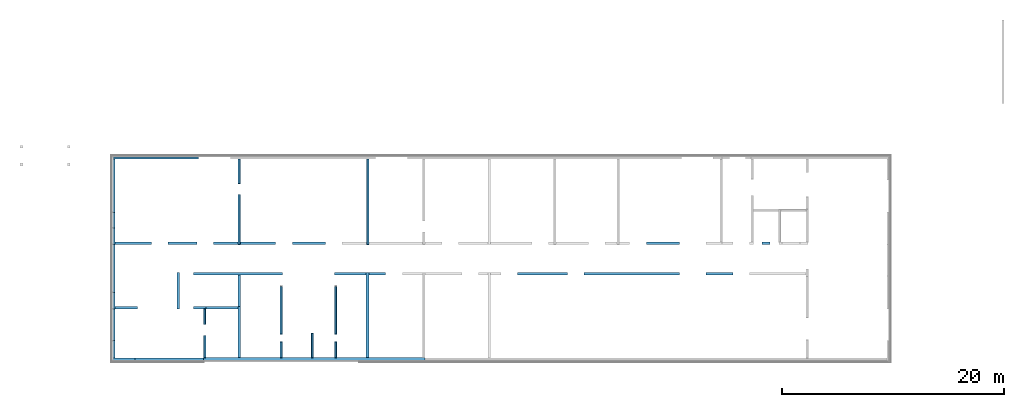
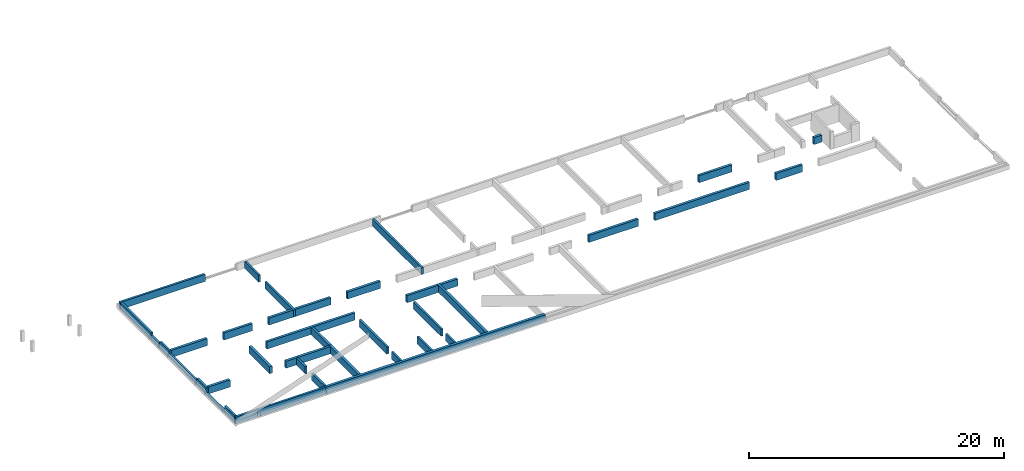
# One storey, part 1 of 7: 39 beams.
"""IFC2X3 building model written with IfcOpenShell, lengths in millimetres."""

from ifc_helpers import new_model, entity, si_unit, converted_unit, derived_unit, money_unit, direction, frame, origin_with_axes, place, context, subcontext, project, spatial, polyline, outline, extrude, faceted_brep, material, type_object, element, save


model = new_model("IFC2X3")

# Units and contexts
model_context = context("Model", 3, precision=0.01, world=origin_with_axes(), true_north=direction((0.0, 1.0)))
body_context = subcontext(model_context, "Body", "Model", "MODEL_VIEW")
ifc_project = project(units=[si_unit("LENGTHUNIT", "METRE", prefix="MILLI"), si_unit("AREAUNIT", "SQUARE_METRE"), si_unit("VOLUMEUNIT", "CUBIC_METRE"), converted_unit("PLANEANGLEUNIT", "DEGREE", entity("IfcPlaneAngleMeasure", 0.0174532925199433), si_unit("PLANEANGLEUNIT", "RADIAN"), dimensions=[0, 0, 0, 0, 0, 0, 0]), money_unit("EUR"), converted_unit("TIMEUNIT", "Year", entity("IfcTimeMeasure", 31556926.0), si_unit("TIMEUNIT", "SECOND"), dimensions=[0, 0, 1, 0, 0, 0, 0]), si_unit("MASSUNIT", "GRAM", prefix="KILO"), si_unit("THERMODYNAMICTEMPERATUREUNIT", "DEGREE_CELSIUS"), si_unit("LUMINOUSINTENSITYUNIT", "LUMEN"), si_unit("ENERGYUNIT", "JOULE", prefix="MEGA"), derived_unit("THERMALCONDUCTANCEUNIT", [(si_unit("POWERUNIT", "WATT"), 1), (si_unit("LENGTHUNIT", "METRE"), -1), (si_unit("THERMODYNAMICTEMPERATUREUNIT", "KELVIN"), -1)]), derived_unit("SPECIFICHEATCAPACITYUNIT", [(si_unit("ENERGYUNIT", "JOULE"), 1), (si_unit("MASSUNIT", "GRAM", prefix="KILO"), -1), (si_unit("THERMODYNAMICTEMPERATUREUNIT", "KELVIN"), -1)]), derived_unit("MASSDENSITYUNIT", [(si_unit("MASSUNIT", "GRAM", prefix="KILO"), 1), (si_unit("VOLUMEUNIT", "CUBIC_METRE"), -1)])], contexts=[model_context])

# Site, building, storey
site_placement = place(None, origin_with_axes())
site = spatial("IfcSite", under=ifc_project, at=site_placement, Name="ÜBN Kinnistu Nimi -> SOLIBRI", CompositionType="ELEMENT")
building_placement = place(site_placement, origin_with_axes())
building = spatial("IfcBuilding", under=site, at=building_placement, Name="METK ARETUSKESKUS II", CompositionType="ELEMENT")
storey_placement = place(building_placement, frame((0.0, 0.0, -1610.0), z_axis=(0.0, 0.0, 1.0), x_axis=(1.0, 0.0, 0.0)))
storey = spatial("IfcBuildingStorey", under=building, at=storey_placement, Name="Vundament", CompositionType="ELEMENT", Elevation=-1610.0)

# Beams
ifc_material_1 = material(Name="31 Konst: raudbetoon monoliitne")
beam_type_1 = type_object("IfcBeamType", Name="31 Konst: raudbetoon monoliitne 180", PredefinedType="BEAM")
beam_1_placement = place(storey_placement, frame((39815.00000193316, 20080.0, 1330.0), z_axis=(0.0, 0.0, 1.0), x_axis=(0.0, 1.0, 0.0)))
element("IfcBeam", 1, at=beam_1_placement, inside=storey, type_object=beam_type_1, material=ifc_material_1, ObjectType="BEAM", context=body_context, shape_type="Brep", body=[
    faceted_brep([(0.0, 0.0, 0.0), (1410.017109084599, 0.0, 0.0), (1410.017109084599, -179.9999999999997, 0.0), (0.0, -179.9999999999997, 0.0), (0.0, 0.0, 680.0000000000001), (1410.017109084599, 0.0, 680.0000000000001), (1410.017109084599, -179.9999999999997, 680.0000000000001), (0.0, -179.9999999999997, 680.0000000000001)], [[[0, 1, 2, 3]], [[4, 5, 1, 0]], [[2, 1, 5, 6]], [[3, 2, 6, 7]], [[4, 0, 3, 7]], [[7, 6, 5, 4]]]),
])
beam_2_placement = place(storey_placement, frame((28195.00000190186, 23070.00818837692, 1330.0), z_axis=(0.0, 0.0, 1.0), x_axis=(0.0, 1.0, 0.0)))
element("IfcBeam", 2, at=beam_2_placement, inside=storey, type_object=beam_type_1, material=ifc_material_1, ObjectType="BEAM", context=body_context, shape_type="Brep", body=[
    faceted_brep([(0.0, 0.0, 0.0), (1404.991782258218, 0.0, 0.0), (1404.991782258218, 0.0, 680.0000000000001), (0.0, 0.0, 680.0000000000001), (0.0, 179.9999999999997, 0.0), (1404.991782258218, 179.9999999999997, 0.0), (1404.991782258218, 179.9999999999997, 680.0000000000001), (0.0, 179.9999999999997, 680.0000000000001)], [[[0, 1, 2, 3]], [[4, 5, 1, 0]], [[5, 6, 2, 1]], [[3, 2, 6, 7]], [[7, 4, 0, 3]], [[7, 6, 5, 4]]]),
])
beam_3_placement = place(storey_placement, frame((35085.00000190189, 20080.0, 1330.0), z_axis=(0.0, 0.0, 1.0), x_axis=(0.0, 1.0, 0.0)))
element("IfcBeam", 3, at=beam_3_placement, inside=storey, type_object=beam_type_1, material=ifc_material_1, ObjectType="BEAM", context=body_context, shape_type="Brep", body=[
    faceted_brep([(0.0, 0.0, 680.0000000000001), (1410.017109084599, 0.0, 680.0000000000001), (1410.017109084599, 179.9999999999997, 680.0000000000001), (0.0, 179.9999999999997, 680.0000000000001), (0.0, 0.0, 0.0), (1410.017109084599, 0.0, 0.0), (1410.017109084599, 179.9999999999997, 0.0), (0.0, 179.9999999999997, 0.0)], [[[0, 1, 2, 3]], [[4, 5, 1, 0]], [[2, 1, 5, 6]], [[3, 2, 6, 7]], [[4, 0, 3, 7]], [[7, 6, 5, 4]]]),
])
beam_4_placement = place(storey_placement, frame((39815.00000193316, 22190.0171090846, 1330.0), z_axis=(0.0, 0.0, 1.0), x_axis=(0.0, 1.0, 0.0)))
element("IfcBeam", 4, at=beam_4_placement, inside=storey, type_object=beam_type_1, material=ifc_material_1, ObjectType="BEAM", context=body_context, shape_type="Brep", body=[
    faceted_brep([(0.0, 0.0, 0.0), (4309.982849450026, 0.0, 0.0), (4309.982849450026, -179.9999999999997, 0.0), (0.0, -179.9999999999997, 0.0), (0.0, 0.0, 680.0000000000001), (4309.982849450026, 0.0, 680.0000000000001), (4309.982849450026, -179.9999999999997, 680.0000000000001), (0.0, -179.9999999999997, 680.0000000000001)], [[[0, 1, 2, 3]], [[4, 5, 1, 0]], [[2, 1, 5, 6]], [[3, 2, 6, 7]], [[4, 0, 3, 7]], [[7, 6, 5, 4]]]),
])
beam_5_placement = place(storey_placement, frame((35085.00000190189, 22190.0171090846, 1330.0), z_axis=(0.0, 0.0, 1.0), x_axis=(0.0, 1.0, 0.0)))
element("IfcBeam", 5, at=beam_5_placement, inside=storey, type_object=beam_type_1, material=ifc_material_1, ObjectType="BEAM", context=body_context, shape_type="Brep", body=[
    faceted_brep([(0.0, 0.0, 680.0000000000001), (4309.982849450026, 0.0, 680.0000000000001), (4309.982849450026, 179.9999999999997, 680.0000000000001), (0.0, 179.9999999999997, 680.0000000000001), (0.0, 0.0, 0.0), (4309.982849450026, 0.0, 0.0), (4309.982849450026, 179.9999999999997, 0.0), (0.0, 179.9999999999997, 0.0)], [[[0, 1, 2, 3]], [[4, 5, 1, 0]], [[2, 1, 5, 6]], [[3, 2, 6, 7]], [[4, 0, 3, 7]], [[7, 6, 5, 4]]]),
])
beam_6_placement = place(storey_placement, frame((37696.16851933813, 20080.0, 1330.0), z_axis=(0.0, 0.0, 1.0), x_axis=(0.0, 1.0, 0.0)))
element("IfcBeam", 6, at=beam_6_placement, inside=storey, type_object=beam_type_1, material=ifc_material_1, ObjectType="BEAM", context=body_context, shape_type="Brep", body=[
    faceted_brep([(0.0, 0.0, 0.0), (2220.017124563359, 0.0, 0.0), (2220.017124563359, -179.9999999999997, 0.0), (0.0, -179.9999999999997, 0.0), (0.0, 0.0, 680.0000000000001), (2220.017124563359, 0.0, 680.0000000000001), (2220.017124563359, -179.9999999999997, 680.0000000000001), (0.0, -179.9999999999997, 680.0000000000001)], [[[0, 1, 2, 3]], [[4, 5, 1, 0]], [[2, 1, 5, 6]], [[3, 2, 6, 7]], [[4, 0, 3, 7]], [[7, 6, 5, 4]]]),
])
beam_7_placement = place(storey_placement, frame((28195.00000190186, 20080.0, 1330.0), z_axis=(0.0, 0.0, 1.0), x_axis=(0.0, 1.0, 0.0)))
element("IfcBeam", 7, at=beam_7_placement, inside=storey, type_object=beam_type_1, material=ifc_material_1, ObjectType="BEAM", context=body_context, shape_type="Brep", body=[
    faceted_brep([(0.0, 0.0, 680.0000000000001), (1990.008188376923, 0.0, 680.0000000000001), (1990.008188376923, 179.9999999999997, 680.0000000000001), (0.0, 179.9999999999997, 680.0000000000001), (0.0, 0.0, 0.0), (1990.008188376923, 0.0, 0.0), (1990.008188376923, 179.9999999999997, 0.0), (0.0, 179.9999999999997, 0.0)], [[[0, 1, 2, 3]], [[4, 5, 1, 0]], [[2, 1, 5, 6]], [[3, 2, 6, 7]], [[4, 0, 3, 7]], [[7, 6, 5, 4]]]),
])
beam_8_placement = place(storey_placement, frame((31285.00000190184, 35770.00000209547, 1330.0), z_axis=(0.0, 0.0, 1.0), x_axis=(0.0, 1.0, 0.0)))
element("IfcBeam", 8, at=beam_8_placement, inside=storey, type_object=beam_type_1, material=ifc_material_1, ObjectType="BEAM", context=body_context, shape_type="Brep", body=[
    faceted_brep([(2200.000004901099, 0.0, 680.0000000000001), (2200.000004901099, 179.9999999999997, 680.0000000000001), (0.0, 179.9999999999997, 680.0000000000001), (0.0, 0.0, 680.0000000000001), (2200.000004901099, 0.0, 0.0), (2200.000004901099, 179.9999999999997, 0.0), (0.0, 179.9999999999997, 0.0), (0.0, 0.0, 0.0)], [[[0, 1, 2, 3]], [[1, 0, 4, 5]], [[1, 5, 6, 2]], [[7, 3, 2, 6]], [[4, 0, 3, 7]], [[5, 4, 7, 6]]]),
])
beam_9_placement = place(storey_placement, frame((42885.00000380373, 30265.00000683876, 1330.0), z_axis=(0.0, 0.0, 1.0), x_axis=(0.0, 1.0, 0.0)))
element("IfcBeam", 9, at=beam_9_placement, inside=storey, type_object=beam_type_1, material=ifc_material_1, ObjectType="BEAM", context=body_context, shape_type="Brep", body=[
    faceted_brep([(7705.000000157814, 0.0, 680.0000000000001), (7705.000000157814, 179.9999999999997, 680.0000000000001), (0.0, 179.9999999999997, 680.0000000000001), (0.0, 0.0, 680.0000000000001), (7705.000000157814, 0.0, 0.0), (7705.000000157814, 179.9999999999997, 0.0), (0.0, 179.9999999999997, 0.0), (0.0, 0.0, 0.0)], [[[0, 1, 2, 3]], [[1, 0, 4, 5]], [[1, 5, 6, 2]], [[7, 3, 2, 6]], [[4, 0, 3, 7]], [[5, 4, 7, 6]]]),
])
beam_10_placement = place(storey_placement, frame((31285.00000190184, 30265.00000683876, 1330.0), z_axis=(0.0, 0.0, 1.0), x_axis=(0.0, 1.0, 0.0)))
element("IfcBeam", 10, at=beam_10_placement, inside=storey, type_object=beam_type_1, material=ifc_material_1, ObjectType="BEAM", context=body_context, shape_type="Brep", body=[
    faceted_brep([(0.0, 0.0, 680.0000000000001), (4504.999995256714, 0.0, 680.0000000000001), (4504.999995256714, 179.9999999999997, 680.0000000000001), (0.0, 179.9999999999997, 680.0000000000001), (0.0, 0.0, 0.0), (4504.999995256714, 0.0, 0.0), (4504.999995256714, 179.9999999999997, 0.0), (0.0, 179.9999999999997, 0.0)], [[[0, 1, 2, 3]], [[4, 5, 1, 0]], [[2, 1, 5, 6]], [[3, 2, 6, 7]], [[4, 0, 3, 7]], [[7, 6, 5, 4]]]),
])
beam_type_2 = type_object("IfcBeamType", Name="31 Konst: raudbetoon monoliitne 230", PredefinedType="BEAM")
beam_11_placement = place(storey_placement, frame((31335.00000190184, 20080.0, 1330.0), z_axis=(0.0, 0.0, 1.0), x_axis=(0.0, 1.0, 0.0)))
element("IfcBeam", 11, at=beam_11_placement, inside=storey, type_object=beam_type_2, material=ifc_material_1, ObjectType="BEAM", context=body_context, shape_type="Brep", body=[
    faceted_brep([(4624.999970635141, 0.0, 680.0000000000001), (4624.999970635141, 230.0000000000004, 680.0000000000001), (0.0, 230.0000000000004, 680.0000000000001), (0.0, 0.0, 680.0000000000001), (4624.999970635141, 0.0, 0.0), (4624.999970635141, 230.0000000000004, 0.0), (0.0, 230.0000000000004, 0.0), (0.0, 0.0, 0.0)], [[[0, 1, 2, 3]], [[1, 0, 4, 5]], [[1, 5, 6, 2]], [[7, 3, 2, 6]], [[4, 0, 3, 7]], [[5, 4, 7, 6]]]),
])
beam_12_placement = place(storey_placement, frame((25605.00000190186, 24474.99995853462, 1330.0), z_axis=(0.0, 0.0, 1.0), x_axis=(0.0, 1.0, 0.0)))
element("IfcBeam", 12, at=beam_12_placement, inside=storey, type_object=beam_type_2, material=ifc_material_1, ObjectType="BEAM", context=body_context, shape_type="SweptSolid", body=[
    extrude(outline(polyline([(0.0, -230.0000000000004), (3259.999999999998, -230.0000000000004), (3259.999999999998, 0.0), (0.0, 0.0), (0.0, -230.0000000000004)])), origin_with_axes(), (0.0, 0.0, 1.0), 680.0),
])
beam_13_placement = place(storey_placement, frame((42885.00000380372, 20080.0, 1330.0), z_axis=(0.0, 0.0, 1.0), x_axis=(0.0, 1.0, 0.0)))
element("IfcBeam", 13, at=beam_13_placement, inside=storey, type_object=beam_type_2, material=ifc_material_1, ObjectType="BEAM", context=body_context, shape_type="Brep", body=[
    faceted_brep([(7654.999958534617, 0.0, 680.0000000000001), (7654.999958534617, 229.9999999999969, 680.0000000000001), (0.0, 229.9999999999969, 680.0000000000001), (0.0, 0.0, 680.0000000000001), (7654.999958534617, 0.0, 0.0), (7654.999958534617, 229.9999999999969, 0.0), (0.0, 229.9999999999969, 0.0), (0.0, 0.0, 0.0)], [[[0, 1, 2, 3]], [[1, 0, 4, 5]], [[1, 5, 6, 2]], [[7, 3, 2, 6]], [[4, 0, 3, 7]], [[5, 4, 7, 6]]]),
])
beam_14_placement = place(storey_placement, frame((27090.00000190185, 27734.99995853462, 1330.0), z_axis=(0.0, 0.0, 1.0), x_axis=(1.0, 0.0, 0.0)))
element("IfcBeam", 14, at=beam_14_placement, inside=storey, type_object=beam_type_2, material=ifc_material_1, ObjectType="BEAM", context=body_context, shape_type="Brep", body=[
    faceted_brep([(0.0, 0.0, 0.0), (8000.000000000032, 0.0, 0.0), (8000.000000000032, -230.0000000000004, 0.0), (0.0, -230.0000000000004, 0.0), (0.0, 0.0, 680.0000000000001), (8000.000000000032, 0.0, 680.0000000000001), (8000.000000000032, -230.0000000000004, 680.0000000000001), (0.0, -230.0000000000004, 680.0000000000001)], [[[0, 1, 2, 3]], [[4, 5, 1, 0]], [[2, 1, 5, 6]], [[3, 2, 6, 7]], [[4, 0, 3, 7]], [[7, 6, 5, 4]]]),
])
beam_15_placement = place(storey_placement, frame((31105.00000190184, 24474.99997063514, 1330.0), z_axis=(0.0, 0.0, 1.0), x_axis=(0.0, 1.0, 0.0)))
element("IfcBeam", 15, at=beam_15_placement, inside=storey, type_object=beam_type_2, material=ifc_material_1, ObjectType="BEAM", context=body_context, shape_type="Brep", body=[
    faceted_brep([(3029.999987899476, -230.0000000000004, 680.0000000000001), (3029.999987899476, 0.0, 680.0000000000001), (230.0000000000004, 0.0, 680.0000000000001), (230.0000000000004, -230.0000000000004, 680.0000000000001), (3029.999987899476, -230.0000000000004, 0.0), (3029.999987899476, 0.0, 0.0), (230.0000000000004, 0.0, 0.0), (230.0000000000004, -230.0000000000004, 0.0)], [[[0, 1, 2, 3]], [[1, 0, 4, 5]], [[1, 5, 6, 2]], [[7, 3, 2, 6]], [[4, 0, 3, 7]], [[5, 4, 7, 6]]]),
])
beam_16_placement = place(storey_placement, frame((28195.00000190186, 24474.99997063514, 1330.0), z_axis=(0.0, 0.0, 1.0), x_axis=(1.0, 0.0, 0.0)))
element("IfcBeam", 16, at=beam_16_placement, inside=storey, type_object=beam_type_2, material=ifc_material_1, ObjectType="BEAM", context=body_context, shape_type="Brep", body=[
    faceted_brep([(2909.999999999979, 230.0000000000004, 680.0000000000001), (0.0, 230.0000000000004, 680.0000000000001), (0.0, 0.0, 680.0000000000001), (2909.999999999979, 0.0, 680.0000000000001), (2909.999999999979, 230.0000000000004, 0.0), (0.0, 230.0000000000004, 0.0), (0.0, 0.0, 0.0), (2909.999999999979, 0.0, 0.0)], [[[0, 1, 2, 3]], [[4, 5, 1, 0]], [[1, 5, 6, 2]], [[3, 2, 6, 7]], [[7, 4, 0, 3]], [[7, 6, 5, 4]]]),
])
beam_17_placement = place(storey_placement, frame((27090.00000190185, 24474.99997063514, 1330.0), z_axis=(0.0, 0.0, 1.0), x_axis=(1.0, 0.0, 0.0)))
element("IfcBeam", 17, at=beam_17_placement, inside=storey, type_object=beam_type_2, material=ifc_material_1, ObjectType="BEAM", context=body_context, shape_type="Brep", body=[
    faceted_brep([(0.0, 230.0000000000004, 0.0), (0.0, 230.0000000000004, 285.0000000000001), (-4.999984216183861, 230.0000000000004, 285.0000000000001), (-4.999984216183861, 230.0000000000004, 680.0), (1105.000000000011, 230.0000000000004, 680.0000000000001), (1105.000000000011, 230.0000000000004, 0.0), (0.0, 0.0, 0.0), (0.0, 0.0, 285.0000000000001), (-4.999984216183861, 0.0, 285.0000000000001), (-4.999984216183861, 0.0, 680.0), (1105.000000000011, 0.0, 680.0000000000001), (1105.000000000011, 0.0, 0.0)], [[[0, 1, 2, 3, 4, 5]], [[6, 7, 1, 0]], [[1, 7, 8, 2]], [[2, 8, 9, 3]], [[10, 4, 3, 9]], [[11, 5, 4, 10]], [[5, 11, 6, 0]], [[11, 10, 9, 8, 7, 6]]]),
])
beam_18_placement = place(storey_placement, frame((20030.00000000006, 24474.99997063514, 1330.0), z_axis=(0.0, 0.0, 1.0), x_axis=(1.0, 0.0, 0.0)))
element("IfcBeam", 18, at=beam_18_placement, inside=storey, type_object=beam_type_2, material=ifc_material_1, ObjectType="BEAM", context=body_context, shape_type="Brep", body=[
    faceted_brep([(-189.9999999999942, 230.0000000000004, 180.0), (-189.9999999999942, 5.000029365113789, 179.9999999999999), (0.0, 5.000029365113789, 179.9999999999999), (0.0, 230.0000000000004, 180.0), (-189.9999999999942, 230.0000000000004, 0.0), (-189.9999999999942, 5.000029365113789, 0.0), (0.0, 5.000029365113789, 0.0), (0.0, 0.0, 179.9999999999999), (0.0, 0.0, 680.0000000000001), (0.0, 230.0000000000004, 680.0000000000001), (1999.99999999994, 230.0000000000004, 680.0000000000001), (1999.99999999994, 230.0000000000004, 0.0), (0.0, 0.0, 0.0), (1999.99999999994, 0.0, 0.0), (1999.99999999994, 0.0, 680.0000000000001)], [[[0, 1, 2, 3]], [[4, 5, 1, 0]], [[6, 2, 1, 5]], [[3, 2, 7, 8, 9]], [[10, 11, 4, 0, 3, 9]], [[12, 6, 5, 4, 11, 13]], [[12, 7, 2, 6]], [[8, 7, 12, 13, 14]], [[14, 10, 9, 8]], [[13, 11, 10, 14]]]),
])
beam_19_placement = place(storey_placement, frame((20030.00000000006, 30265.00000683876, 1330.0), z_axis=(0.0, 0.0, 1.0), x_axis=(1.0, 0.0, 0.0)))
element("IfcBeam", 19, at=beam_19_placement, inside=storey, type_object=beam_type_2, material=ifc_material_1, ObjectType="BEAM", context=body_context, shape_type="Brep", body=[
    faceted_brep([(-189.9999999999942, 230.0000000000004, 435.0004703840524), (-189.9999999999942, 14.99997043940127, 435.0004703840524), (0.0, 14.99997043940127, 435.0004703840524), (0.0, 230.0000000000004, 435.0004703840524), (-189.9999999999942, 230.0000000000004, 0.0), (-189.9999999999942, 14.99997043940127, 0.0), (0.0, 14.99997043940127, 0.0), (0.0, 0.0, 435.0004703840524), (0.0, 0.0, 680.0000000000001), (0.0, 230.0000000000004, 680.0000000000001), (3260.400000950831, 230.0000000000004, 680.0000000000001), (3260.400000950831, 230.0000000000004, 0.0), (0.0, 0.0, 0.0), (3260.400000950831, 0.0, 0.0), (3260.400000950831, 0.0, 680.0000000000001)], [[[0, 1, 2, 3]], [[4, 5, 1, 0]], [[6, 2, 1, 5]], [[3, 2, 7, 8, 9]], [[10, 11, 4, 0, 3, 9]], [[12, 6, 5, 4, 11, 13]], [[12, 7, 2, 6]], [[8, 7, 12, 13, 14]], [[14, 10, 9, 8]], [[13, 11, 10, 14]]]),
])
beam_20_placement = place(storey_placement, frame((78330.00000107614, 30265.00000683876, 1330.0), z_axis=(0.0, 0.0, 1.0), x_axis=(1.0, 0.0, 0.0)))
element("IfcBeam", 20, at=beam_20_placement, inside=storey, type_object=beam_type_2, material=ifc_material_1, ObjectType="BEAM", context=body_context, shape_type="SweptSolid", body=[
    extrude(outline(polyline([(0.0, 0.0), (700.000000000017, 0.0), (700.000000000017, 230.0000000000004), (0.0, 230.0000000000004), (0.0, 0.0)])), origin_with_axes(), (0.0, 0.0, 1.0), 680.0),
])
beam_type_3 = type_object("IfcBeamType", Name="31 Konst: raudbetoon monoliitne 190", PredefinedType="BEAM")
beam_21_placement = place(storey_placement, frame((20030.00000000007, 25969.99997727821, 1330.0), z_axis=(0.0, 0.0, 1.0), x_axis=(0.0, 1.0, 0.0)))
element("IfcBeam", 21, at=beam_21_placement, inside=storey, type_object=beam_type_3, material=ifc_material_1, ObjectType="BEAM", context=body_context, shape_type="Brep", body=[
    faceted_brep([(0.0, 0.0, 435.0004703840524), (4309.999999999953, 0.0, 435.0004703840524), (4309.999999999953, 190.0000000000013, 435.0004703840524), (0.0, 190.0000000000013, 435.0004703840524), (0.0, 0.0, 0.0), (4309.999999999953, 0.0, 0.0), (4309.999999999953, 190.0000000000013, 0.0), (0.0, 190.0000000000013, 0.0)], [[[0, 1, 2, 3]], [[4, 5, 1, 0]], [[2, 1, 5, 6]], [[3, 2, 6, 7]], [[4, 0, 3, 7]], [[7, 6, 5, 4]]]),
])
beam_22_placement = place(storey_placement, frame((20030.00000000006, 33180.000060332, 1330.0), z_axis=(0.0, 0.0, 1.0), x_axis=(0.0, 1.0, 0.0)))
element("IfcBeam", 22, at=beam_22_placement, inside=storey, type_object=beam_type_3, material=ifc_material_1, ObjectType="BEAM", context=body_context, shape_type="Brep", body=[
    faceted_brep([(4789.999946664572, 0.0, 680.0000000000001), (4789.999946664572, 190.0000000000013, 680.0000000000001), (0.0, 190.0000000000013, 680.0000000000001), (0.0, 0.0, 680.0000000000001), (4789.999946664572, 0.0, 0.0), (4789.999946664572, 190.0000000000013, 0.0), (0.0, 190.0000000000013, 0.0), (0.0, 0.0, 0.0)], [[[0, 1, 2, 3]], [[1, 0, 4, 5]], [[1, 5, 6, 2]], [[7, 3, 2, 6]], [[4, 0, 3, 7]], [[5, 4, 7, 6]]]),
])
beam_23_placement = place(storey_placement, frame((20030.00000000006, 31770.13961946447, 1330.0), z_axis=(0.0, 0.0, 1.0), x_axis=(0.0, 1.0, 0.0)))
element("IfcBeam", 23, at=beam_23_placement, inside=storey, type_object=beam_type_3, material=ifc_material_1, ObjectType="BEAM", context=body_context, shape_type="Brep", body=[
    faceted_brep([(0.0, 0.0, 435.0004703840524), (1409.860440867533, 0.0, 435.0004703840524), (1409.860440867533, 190.0000000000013, 435.0004703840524), (0.0, 190.0000000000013, 435.0004703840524), (0.0, 0.0, 0.0), (1409.860440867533, 0.0, 0.0), (1409.860440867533, 190.0000000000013, 0.0), (0.0, 190.0000000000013, 0.0)], [[[0, 1, 2, 3]], [[4, 5, 1, 0]], [[2, 1, 5, 6]], [[3, 2, 6, 7]], [[4, 0, 3, 7]], [[7, 6, 5, 4]]]),
])
beam_24_placement = place(storey_placement, frame((20030.00000000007, 20030.00000000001, 1330.0), z_axis=(0.0, 0.0, 1.0), x_axis=(1.0, 0.0, 0.0)))
element("IfcBeam", 24, at=beam_24_placement, inside=storey, type_object=beam_type_3, material=ifc_material_1, ObjectType="BEAM", context=body_context, shape_type="Brep", body=[
    faceted_brep([(1809.999999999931, -190.0000000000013, 0.0), (-190.0000000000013, -190.0000000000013, 0.0), (-190.0000000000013, 0.0, 0.0), (1809.999999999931, 0.0, 0.0), (1809.999999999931, -190.0000000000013, 680.0000000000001), (-190.0000000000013, -190.0000000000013, 680.0000000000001), (-190.0000000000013, 0.0, 680.0000000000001), (1809.999999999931, 0.0, 680.0000000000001)], [[[0, 1, 2, 3]], [[4, 5, 1, 0]], [[6, 2, 1, 5]], [[3, 2, 6, 7]], [[7, 4, 0, 3]], [[7, 6, 5, 4]]]),
])
beam_25_placement = place(storey_placement, frame((20030.00000000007, 21619.99996998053, 1330.0), z_axis=(0.0, 0.0, 1.0), x_axis=(0.0, 1.0, 0.0)))
element("IfcBeam", 25, at=beam_25_placement, inside=storey, type_object=beam_type_3, material=ifc_material_1, ObjectType="BEAM", context=body_context, shape_type="Brep", body=[
    faceted_brep([(0.0, 0.0, 179.9999999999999), (2860.000030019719, 0.0, 179.9999999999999), (2860.000030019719, 190.0000000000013, 179.9999999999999), (0.0, 190.0000000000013, 179.9999999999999), (0.0, 0.0, 0.0), (2860.000030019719, 0.0, 0.0), (2860.000030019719, 190.0000000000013, 0.0), (0.0, 190.0000000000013, 0.0)], [[[0, 1, 2, 3]], [[4, 5, 1, 0]], [[2, 1, 5, 6]], [[3, 2, 6, 7]], [[4, 0, 3, 7]], [[7, 6, 5, 4]]]),
])
beam_26_placement = place(storey_placement, frame((21840.0, 20030.00000000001, 1330.0), z_axis=(0.0, 0.0, 1.0), x_axis=(1.0, 0.0, 0.0)))
element("IfcBeam", 26, at=beam_26_placement, inside=storey, type_object=beam_type_3, material=ifc_material_1, ObjectType="BEAM", context=body_context, shape_type="Brep", body=[
    faceted_brep([(6170.000001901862, -190.0000000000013, 0.0), (0.0, -190.0000000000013, 0.0), (0.0, 0.0, 0.0), (6170.000001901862, 0.0, 0.0), (6170.000001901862, -190.0000000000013, 680.0000000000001), (0.0, -190.0000000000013, 680.0000000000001), (0.0, 0.0, 680.0000000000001), (6170.000001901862, 0.0, 680.0000000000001)], [[[0, 1, 2, 3]], [[4, 5, 1, 0]], [[1, 5, 6, 2]], [[3, 2, 6, 7]], [[7, 4, 0, 3]], [[7, 6, 5, 4]]]),
])
beam_27_placement = place(storey_placement, frame((20030.00000000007, 20030.00000000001, 1330.0), z_axis=(0.0, 0.0, 1.0), x_axis=(0.0, 1.0, 0.0)))
element("IfcBeam", 27, at=beam_27_placement, inside=storey, type_object=beam_type_3, material=ifc_material_1, ObjectType="BEAM", context=body_context, shape_type="Brep", body=[
    faceted_brep([(0.0, 0.0, 0.0), (1589.999969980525, 0.0, 0.0), (1589.999969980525, 0.0, 180.0), (1589.999969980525, 0.0, 280.0), (1595.000000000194, 0.0, 280.0), (1595.000000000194, 0.0, 680.0), (0.0, 0.0, 680.0000000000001), (0.0, 190.0000000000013, 0.0), (1589.999969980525, 190.0000000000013, 0.0), (1589.999969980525, 190.0000000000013, 180.0), (1589.999969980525, 190.0000000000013, 280.0), (1595.000000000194, 190.0000000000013, 280.0), (1595.000000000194, 190.0000000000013, 680.0), (0.0, 190.0000000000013, 680.0000000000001)], [[[0, 1, 2, 3, 4, 5, 6]], [[0, 7, 8, 1]], [[1, 8, 9, 2]], [[9, 10, 3, 2]], [[3, 10, 11, 4]], [[12, 5, 4, 11]], [[13, 6, 5, 12]], [[7, 0, 6, 13]], [[12, 11, 10, 9, 8, 7, 13]]]),
])
beam_28_placement = place(storey_placement, frame((20030.00000000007, 30279.99997727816, 1330.0), z_axis=(0.0, 0.0, 1.0), x_axis=(0.0, 1.0, 0.0)))
element("IfcBeam", 28, at=beam_28_placement, inside=storey, type_object=beam_type_3, material=ifc_material_1, ObjectType="BEAM", context=body_context, shape_type="Brep", body=[
    faceted_brep([(0.0, 0.0, 680.0000000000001), (1490.139642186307, 0.0, 680.0000000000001), (1490.139642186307, 189.9999999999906, 680.0000000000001), (0.0, 190.0000000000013, 680.0000000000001), (0.0, 0.0, 0.0), (1490.139642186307, 0.0, 0.0), (1490.139642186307, 189.9999999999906, 0.0), (0.0, 190.0000000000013, 0.0)], [[[0, 1, 2, 3]], [[4, 5, 1, 0]], [[2, 1, 5, 6]], [[3, 2, 6, 7]], [[4, 0, 3, 7]], [[7, 6, 5, 4]]]),
])
beam_29_placement = place(storey_placement, frame((20030.00000000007, 24480.00000000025, 1330.0), z_axis=(0.0, 0.0, 1.0), x_axis=(0.0, 1.0, 0.0)))
element("IfcBeam", 29, at=beam_29_placement, inside=storey, type_object=beam_type_3, material=ifc_material_1, ObjectType="BEAM", context=body_context, shape_type="Brep", body=[
    faceted_brep([(0.0, 0.0, 680.0000000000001), (1489.999977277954, 0.0, 680.0000000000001), (1489.999977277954, 190.0000000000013, 680.0000000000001), (0.0, 190.0000000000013, 680.0000000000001), (0.0, 0.0, 0.0), (1489.999977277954, 0.0, 0.0), (1489.999977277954, 190.0000000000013, 0.0), (0.0, 190.0000000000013, 0.0)], [[[0, 1, 2, 3]], [[4, 5, 1, 0]], [[2, 1, 5, 6]], [[3, 2, 6, 7]], [[4, 0, 3, 7]], [[7, 6, 5, 4]]]),
])
beam_30_placement = place(storey_placement, frame((27549.99999999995, 37970.00000699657, 1330.0), z_axis=(0.0, 0.0, 1.0), x_axis=(-1.0, 0.0, 0.0)))
element("IfcBeam", 30, at=beam_30_placement, inside=storey, type_object=beam_type_3, material=ifc_material_1, ObjectType="BEAM", context=body_context, shape_type="Brep", body=[
    faceted_brep([(7709.999999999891, 0.0, 0.0), (7709.999999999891, -189.9999999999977, 0.0), (0.0, -189.9999999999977, 0.0), (0.0, 0.0, 0.0), (7709.999999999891, 0.0, 680.0000000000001), (7709.999999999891, -189.9999999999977, 680.0000000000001), (0.0, -189.9999999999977, 680.0000000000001), (0.0, 0.0, 680.0000000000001)], [[[0, 1, 2, 3]], [[1, 0, 4, 5]], [[1, 5, 6, 2]], [[7, 3, 2, 6]], [[4, 0, 3, 7]], [[5, 4, 7, 6]]]),
])
ifc_material_2 = material(Name="80 Siseviim: tolmutõke")
beam_type_4 = type_object("IfcBeamType", Name="80 Siseviim: tolmutõke 230", PredefinedType="BEAM")
beam_31_placement = place(storey_placement, frame((62290.00000291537, 27734.99995853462, 1330.0), z_axis=(0.0, 0.0, 1.0), x_axis=(1.0, 0.0, 0.0)))
element("IfcBeam", 31, at=beam_31_placement, inside=storey, type_object=beam_type_4, material=ifc_material_2, ObjectType="BEAM", context=body_context, shape_type="SweptSolid", body=[
    extrude(outline(polyline([(0.0, -230.0000000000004), (8599.999997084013, -230.0000000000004), (8599.999997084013, 0.0), (0.0, 0.0), (0.0, -230.0000000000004)])), origin_with_axes(), (0.0, 0.0, 1.0), 680.0),
])
beam_32_placement = place(storey_placement, frame((39810.00000193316, 27734.99995853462, 1330.0), z_axis=(0.0, 0.0, 1.0), x_axis=(1.0, 0.0, 0.0)))
element("IfcBeam", 32, at=beam_32_placement, inside=storey, type_object=beam_type_4, material=ifc_material_2, ObjectType="BEAM", context=body_context, shape_type="Brep", body=[
    faceted_brep([(2845.00000187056, 0.0, 0.0), (2845.00000187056, -230.0000000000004, 0.0), (0.0, -230.0000000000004, 0.0), (0.0, 0.0, 0.0), (2845.00000187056, 0.0, 680.0000000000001), (2845.00000187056, -230.0000000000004, 680.0000000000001), (0.0, -230.0000000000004, 680.0000000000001), (0.0, 0.0, 680.0000000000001)], [[[0, 1, 2, 3]], [[1, 0, 4, 5]], [[1, 5, 6, 2]], [[7, 3, 2, 6]], [[4, 0, 3, 7]], [[5, 4, 7, 6]]]),
    faceted_brep([(3075.000001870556, 0.0, 0.0), (4599.999962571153, 0.0, 0.0), (4599.999962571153, -230.0000000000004, 0.0), (3075.000001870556, -230.0000000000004, 0.0), (3075.000001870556, 0.0, 680.0000000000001), (4599.999962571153, 0.0, 680.0000000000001), (4599.999962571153, -230.0000000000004, 680.0000000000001), (3075.000001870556, -230.0000000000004, 680.0000000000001)], [[[0, 1, 2, 3]], [[4, 5, 1, 0]], [[2, 1, 5, 6]], [[3, 2, 6, 7]], [[4, 0, 3, 7]], [[7, 6, 5, 4]]]),
])
beam_33_placement = place(storey_placement, frame((73289.99999999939, 27734.99995853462, 1330.0), z_axis=(0.0, 0.0, 1.0), x_axis=(1.0, 0.0, 0.0)))
element("IfcBeam", 33, at=beam_33_placement, inside=storey, type_object=beam_type_4, material=ifc_material_2, ObjectType="BEAM", context=body_context, shape_type="SweptSolid", body=[
    extrude(outline(polyline([(0.0, -230.0000000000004), (2400.000001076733, -230.0000000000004), (2400.000001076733, 0.0), (0.0, 0.0), (0.0, -230.0000000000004)])), origin_with_axes(), (0.0, 0.0, 1.0), 680.0),
])
beam_34_placement = place(storey_placement, frame((56289.99999999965, 27734.99995853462, 1330.0), z_axis=(0.0, 0.0, 1.0), x_axis=(1.0, 0.0, 0.0)))
element("IfcBeam", 34, at=beam_34_placement, inside=storey, type_object=beam_type_4, material=ifc_material_2, ObjectType="BEAM", context=body_context, shape_type="SweptSolid", body=[
    extrude(outline(polyline([(0.0, -230.0000000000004), (4500.000002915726, -230.0000000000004), (4500.000002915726, 0.0), (0.0, 0.0), (0.0, -230.0000000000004)])), origin_with_axes(), (0.0, 0.0, 1.0), 680.0),
])
beam_35_placement = place(storey_placement, frame((24794.99999947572, 30265.00000683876, 1330.0), z_axis=(0.0, 0.0, 1.0), x_axis=(1.0, 0.0, 0.0)))
element("IfcBeam", 35, at=beam_35_placement, inside=storey, type_object=beam_type_4, material=ifc_material_2, ObjectType="BEAM", context=body_context, shape_type="SweptSolid", body=[
    extrude(outline(polyline([(0.0, 0.0), (2595.000001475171, 0.0), (2595.000001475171, 230.0000000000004), (0.0, 230.0000000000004), (0.0, 0.0)])), origin_with_axes(), (0.0, 0.0, 1.0), 680.0),
])
beam_36_placement = place(storey_placement, frame((28890.00000095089, 30265.00000683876, 1330.0), z_axis=(0.0, 0.0, 1.0), x_axis=(1.0, 0.0, 0.0)))
element("IfcBeam", 36, at=beam_36_placement, inside=storey, type_object=beam_type_4, material=ifc_material_2, ObjectType="BEAM", context=body_context, shape_type="Brep", body=[
    faceted_brep([(2215.000000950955, 0.0, 680.0000000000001), (2215.000000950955, 230.0000000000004, 680.0000000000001), (0.0, 230.0000000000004, 680.0000000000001), (0.0, 0.0, 680.0000000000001), (2215.000000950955, 0.0, 0.0), (2215.000000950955, 230.0000000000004, 0.0), (0.0, 230.0000000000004, 0.0), (0.0, 0.0, 0.0)], [[[0, 1, 2, 3]], [[1, 0, 4, 5]], [[1, 5, 6, 2]], [[7, 3, 2, 6]], [[4, 0, 3, 7]], [[5, 4, 7, 6]]]),
    faceted_brep([(2395.000000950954, 0.0, 680.0000000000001), (5600.000000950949, 0.0, 680.0000000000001), (5600.000000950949, 230.0000000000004, 680.0000000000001), (2395.000000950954, 230.0000000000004, 680.0000000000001), (2395.000000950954, 0.0, 0.0), (5600.000000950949, 0.0, 0.0), (5600.000000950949, 230.0000000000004, 0.0), (2395.000000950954, 230.0000000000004, 0.0)], [[[0, 1, 2, 3]], [[4, 5, 1, 0]], [[2, 1, 5, 6]], [[3, 2, 6, 7]], [[4, 0, 3, 7]], [[7, 6, 5, 4]]]),
])
beam_37_placement = place(storey_placement, frame((35990.00000190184, 30265.00000683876, 1330.0), z_axis=(0.0, 0.0, 1.0), x_axis=(1.0, 0.0, 0.0)))
element("IfcBeam", 37, at=beam_37_placement, inside=storey, type_object=beam_type_4, material=ifc_material_2, ObjectType="BEAM", context=body_context, shape_type="SweptSolid", body=[
    extrude(outline(polyline([(0.0, 0.0), (3000.000000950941, 0.0), (3000.000000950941, 230.0000000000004), (0.0, 230.0000000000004), (0.0, 0.0)])), origin_with_axes(), (0.0, 0.0, 1.0), 680.0),
])
beam_38_placement = place(storey_placement, frame((67890.00000199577, 30265.00000683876, 1330.0), z_axis=(0.0, 0.0, 1.0), x_axis=(1.0, 0.0, 0.0)))
element("IfcBeam", 38, at=beam_38_placement, inside=storey, type_object=beam_type_4, material=ifc_material_2, ObjectType="BEAM", context=body_context, shape_type="SweptSolid", body=[
    extrude(outline(polyline([(0.0, 0.0), (2999.999998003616, 0.0), (2999.999998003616, 230.0000000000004), (0.0, 230.0000000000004), (0.0, 0.0)])), origin_with_axes(), (0.0, 0.0, 1.0), 680.0),
])
beam_type_5 = type_object("IfcBeamType", Name="31 Konst: raudbetoon monoliitne 240", PredefinedType="BEAM")
beam_39_placement = place(storey_placement, frame((28010.00000190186, 20080.0, 1330.0), z_axis=(0.0, 0.0, 1.0), x_axis=(1.0, 0.0, 0.0)))
element("IfcBeam", 39, at=beam_39_placement, inside=storey, type_object=beam_type_5, material=ifc_material_1, ObjectType="BEAM", context=body_context, shape_type="Brep", body=[
    faceted_brep([(0.0, -239.9999999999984, 0.0), (0.0, 0.0, 0.0), (19930.00000098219, 0.0, 0.0), (19930.00000098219, -239.9999999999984, 0.0), (0.0, -239.9999999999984, 680.0000000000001), (0.0, 0.0, 680.0000000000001), (19930.00000098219, 0.0, 680.0000000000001), (19930.00000098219, -239.9999999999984, 680.0000000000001)], [[[0, 1, 2, 3]], [[4, 5, 1, 0]], [[1, 5, 6, 2]], [[7, 3, 2, 6]], [[4, 0, 3, 7]], [[5, 4, 7, 6]]]),
])

save(model, "model.ifc")
